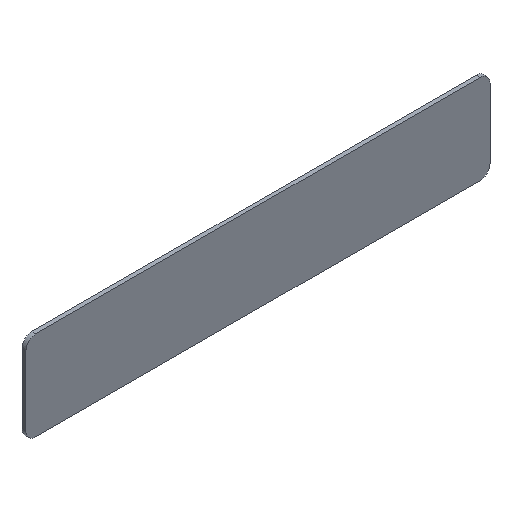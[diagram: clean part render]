
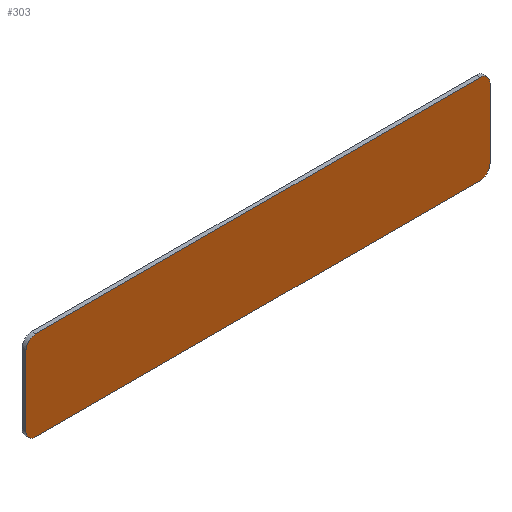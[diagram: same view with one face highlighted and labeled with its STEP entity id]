
A CAD part, isometric view. The second image highlights one B-rep face of the part: STEP entity #303.
In plain terms, the highlighted planar face has unit normal (0, -1, 0).
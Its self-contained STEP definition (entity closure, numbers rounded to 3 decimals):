
#2 = CARTESIAN_POINT ( 'NONE',  ( 112., -14., 247.5 ) ) ;
#16 = VECTOR ( 'NONE', #326, 1000. ) ;
#19 = CARTESIAN_POINT ( 'NONE',  ( -112., -14., 247.5 ) ) ;
#23 = CARTESIAN_POINT ( 'NONE',  ( 112., -14., 287.5 ) ) ;
#24 = AXIS2_PLACEMENT_3D ( 'NONE', #23, #98, #226 ) ;
#25 = VERTEX_POINT ( 'NONE', #260 ) ;
#28 = DIRECTION ( 'NONE',  ( 0., 0., -1. ) ) ;
#38 = CARTESIAN_POINT ( 'NONE',  ( -112., -14., 287.5 ) ) ;
#43 = CARTESIAN_POINT ( 'NONE',  ( -117., -14., 252.5 ) ) ;
#45 = CARTESIAN_POINT ( 'NONE',  ( 112., -14., 252.5 ) ) ;
#55 = VERTEX_POINT ( 'NONE', #43 ) ;
#59 = ORIENTED_EDGE ( 'NONE', *, *, #84, .T. ) ;
#63 = VERTEX_POINT ( 'NONE', #319 ) ;
#68 = DIRECTION ( 'NONE',  ( 1., 0., 0. ) ) ;
#73 = EDGE_CURVE ( 'NONE', #280, #25, #193, .T. ) ;
#74 = VECTOR ( 'NONE', #95, 1000. ) ;
#77 = CARTESIAN_POINT ( 'NONE',  ( -117., -14., 292.5 ) ) ;
#82 = ORIENTED_EDGE ( 'NONE', *, *, #235, .T. ) ;
#84 = EDGE_CURVE ( 'NONE', #55, #243, #144, .T. ) ;
#85 = ORIENTED_EDGE ( 'NONE', *, *, #73, .F. ) ;
#94 = LINE ( 'NONE', #228, #131 ) ;
#95 = DIRECTION ( 'NONE',  ( 0., 0., -1. ) ) ;
#96 = ORIENTED_EDGE ( 'NONE', *, *, #270, .T. ) ;
#98 = DIRECTION ( 'NONE',  ( 0., -1., 0. ) ) ;
#102 = DIRECTION ( 'NONE',  ( 0., -1., 0. ) ) ;
#103 = EDGE_CURVE ( 'NONE', #280, #190, #264, .T. ) ;
#112 = DIRECTION ( 'NONE',  ( 0., -1., 0. ) ) ;
#116 = DIRECTION ( 'NONE',  ( 0., -1., 0. ) ) ;
#119 = VECTOR ( 'NONE', #68, 1000. ) ;
#121 = LINE ( 'NONE', #300, #16 ) ;
#127 = CARTESIAN_POINT ( 'NONE',  ( 117., -14., 252.5 ) ) ;
#131 = VECTOR ( 'NONE', #273, 1000. ) ;
#137 = CIRCLE ( 'NONE', #318, 5. ) ;
#144 = CIRCLE ( 'NONE', #313, 5. ) ;
#155 = DIRECTION ( 'NONE',  ( 0., 0., -1. ) ) ;
#157 = ORIENTED_EDGE ( 'NONE', *, *, #103, .T. ) ;
#169 = CIRCLE ( 'NONE', #24, 5. ) ;
#170 = DIRECTION ( 'NONE',  ( 0., 0., -1. ) ) ;
#176 = CARTESIAN_POINT ( 'NONE',  ( -117., -14., 292.5 ) ) ;
#177 = EDGE_CURVE ( 'NONE', #283, #242, #137, .T. ) ;
#190 = VERTEX_POINT ( 'NONE', #232 ) ;
#193 = LINE ( 'NONE', #247, #119 ) ;
#196 = DIRECTION ( 'NONE',  ( 0., 0., -1. ) ) ;
#199 = CARTESIAN_POINT ( 'NONE',  ( -112., -14., 292.5 ) ) ;
#200 = ORIENTED_EDGE ( 'NONE', *, *, #177, .T. ) ;
#204 = FACE_OUTER_BOUND ( 'NONE', #259, .T. ) ;
#210 = ORIENTED_EDGE ( 'NONE', *, *, #279, .T. ) ;
#213 = AXIS2_PLACEMENT_3D ( 'NONE', #38, #116, #170 ) ;
#224 = AXIS2_PLACEMENT_3D ( 'NONE', #77, #278, #28 ) ;
#226 = DIRECTION ( 'NONE',  ( 0., 0., -1. ) ) ;
#228 = CARTESIAN_POINT ( 'NONE',  ( -117., -14., 247.5 ) ) ;
#232 = CARTESIAN_POINT ( 'NONE',  ( -117., -14., 287.5 ) ) ;
#235 = EDGE_CURVE ( 'NONE', #243, #283, #94, .T. ) ;
#242 = VERTEX_POINT ( 'NONE', #127 ) ;
#243 = VERTEX_POINT ( 'NONE', #19 ) ;
#247 = CARTESIAN_POINT ( 'NONE',  ( -117., -14., 292.5 ) ) ;
#248 = EDGE_CURVE ( 'NONE', #63, #242, #121, .T. ) ;
#259 = EDGE_LOOP ( 'NONE', ( #85, #157, #210, #59, #82, #200, #277, #96 ) ) ;
#260 = CARTESIAN_POINT ( 'NONE',  ( 112., -14., 292.5 ) ) ;
#264 = CIRCLE ( 'NONE', #213, 5. ) ;
#268 = CARTESIAN_POINT ( 'NONE',  ( -112., -14., 252.5 ) ) ;
#270 = EDGE_CURVE ( 'NONE', #63, #25, #169, .T. ) ;
#273 = DIRECTION ( 'NONE',  ( 1., 0., 0. ) ) ;
#277 = ORIENTED_EDGE ( 'NONE', *, *, #248, .F. ) ;
#278 = DIRECTION ( 'NONE',  ( 0., -1., 0. ) ) ;
#279 = EDGE_CURVE ( 'NONE', #190, #55, #325, .T. ) ;
#280 = VERTEX_POINT ( 'NONE', #199 ) ;
#283 = VERTEX_POINT ( 'NONE', #2 ) ;
#300 = CARTESIAN_POINT ( 'NONE',  ( 117., -14., 292.5 ) ) ;
#302 = PLANE ( 'NONE',  #224 ) ;
#303 = ADVANCED_FACE ( 'NONE', ( #204 ), #302, .T. ) ;
#313 = AXIS2_PLACEMENT_3D ( 'NONE', #268, #112, #196 ) ;
#318 = AXIS2_PLACEMENT_3D ( 'NONE', #45, #102, #155 ) ;
#319 = CARTESIAN_POINT ( 'NONE',  ( 117., -14., 287.5 ) ) ;
#325 = LINE ( 'NONE', #176, #74 ) ;
#326 = DIRECTION ( 'NONE',  ( 0., 0., -1. ) ) ;
